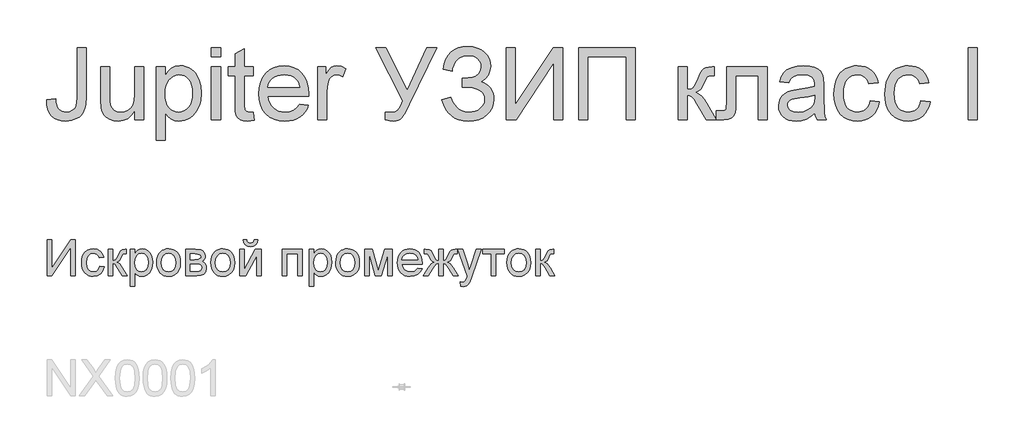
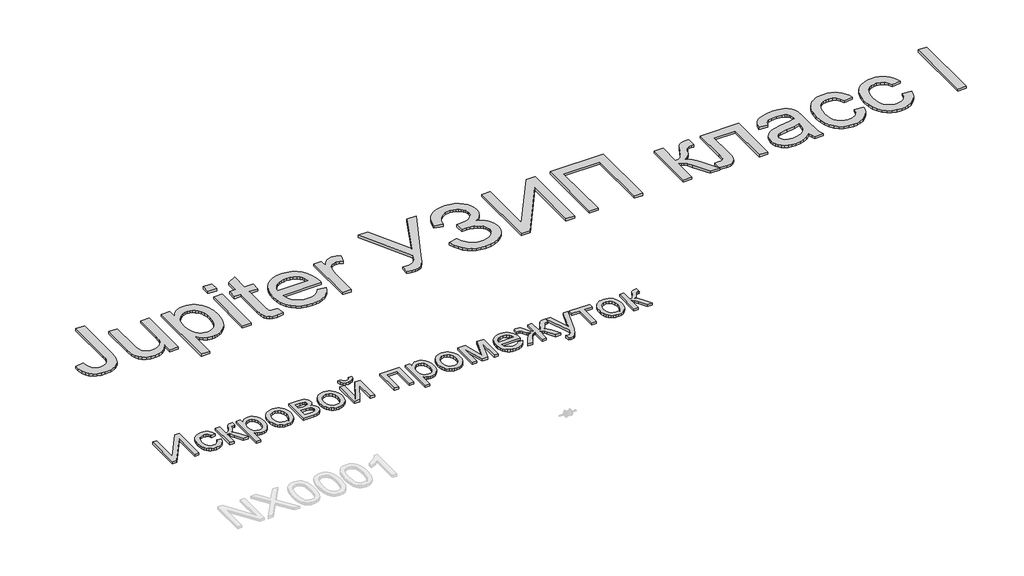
# One storey, part 46 of 124: 2 proxies.
"""IFC4 building model written with IfcOpenShell, lengths in millimetres."""

from ifc_helpers import new_model, si_unit, origin, origin_with_axes, place, context, project, spatial, polyline, outline, extrude, element, save

model = new_model("IFC4")

# Units and contexts
model_context = context("Model", 3, world=origin())
ifc_project = project(units=[si_unit("LENGTHUNIT", "METRE", prefix="MILLI")], contexts=[model_context])

# Site, building, storey
site = spatial("IfcSite", under=ifc_project)
building = spatial("IfcBuilding", under=site)
storey = spatial("IfcBuildingStorey", under=building, Name="Этаж 01", Elevation=0.0)

# Proxies
placement = place(None, origin())
element("IfcBuildingElementProxy", 1, Name="600 мм Arial", ObjectType="600 мм Arial", at=placement, inside=storey, context=model_context, shape_type="SweptSolid", body=[
    extrude(outline(polyline([(49495.1131782, -91079.6474361), (49570.4554108, -91069.9353514), (49573.1133582, -91099.8901429), (49578.2912973, -91124.7129805), (49585.989228, -91144.4038643), (49596.2071504, -91158.9627943), (49608.7887147, -91169.4566282), (49623.5775709, -91176.9522238), (49640.573719, -91181.4495812), (49659.7771592, -91182.9487004), (49687.6074321, -91179.5457919), (49711.3542149, -91169.3370665), (49729.6747383, -91153.2606233), (49741.2262329, -91132.2545614), (49747.3514681, -91101.8491145), (49749.3932132, -91057.5745164), (49749.3932132, -90646.135293), (49824.7354458, -90646.135293), (49824.7354458, -91056.2501412), (49820.1921032, -91123.333423), (49814.5129249, -91150.4601217), (49806.5620753, -91173.3101921), (49796.1418178, -91192.7941422), (49783.0544158, -91209.8224801), (49767.2998693, -91224.3952056), (49748.8781784, -91236.5123188), (49705.9647437, -91252.8462794), (49656.245492, -91258.290933), (49619.1170017, -91255.4812342), (49586.6054304, -91247.052138), (49558.7107781, -91233.0036443), (49535.4330448, -91213.3357532), (49517.1860979, -91188.1220409), (49504.3838044, -91157.436084), (49497.0261645, -91121.2778824), (49495.1131782, -91079.6474361)])), origin_with_axes(), (0.0, 0.0, 1.0), 20.0),
    extrude(outline(polyline([(50229.6999461, -91248.8731539), (50229.6999461, -91172.7951573), (50202.4398903, -91210.1995591), (50170.6916741, -91236.916989), (50134.4552976, -91252.947447), (50093.7307607, -91258.290933), (50057.0345317, -91254.5385366), (50022.8766884, -91243.2813476), (49994.218681, -91226.3587758), (49974.0219595, -91205.6102313), (49960.4287198, -91180.4103146), (49951.5811578, -91150.1336264), (49947.1665738, -91080.0888945), (49947.1665738, -90806.2375373), (50022.5088064, -90806.2375373), (50022.5088064, -91044.6250702), (50023.6492406, -91092.3025767), (50027.0705432, -91121.4388308), (50038.0518207, -91147.0618117), (50056.8689848, -91166.5411634), (50082.2712366, -91178.8468161), (50113.0077773, -91182.9487004), (50145.5101515, -91178.7548456), (50175.9155984, -91166.1732814), (50200.9867564, -91146.3628359), (50217.4862639, -91120.4823376), (50226.6465256, -91085.0369073), (50229.6999461, -91036.5316663), (50229.6999461, -90806.2375373), (50305.0421787, -90806.2375373), (50305.0421787, -91248.8731539), (50229.6999461, -91248.8731539)])), origin_with_axes(), (0.0, 0.0, 1.0), 20.0),
    extrude(outline(polyline([(50408.6377486, -91418.3931773), (50408.6377486, -90806.2375373), (50483.9799812, -90806.2375373), (50483.9799812, -90880.1082419), (50508.5544985, -90843.6695303), (50536.0720717, -90817.6418791), (50568.1513817, -90802.0252884), (50606.4111092, -90796.8197582), (50632.6870807, -90798.6407741), (50657.3627655, -90804.1038217), (50680.4381637, -90813.2089011), (50701.9132751, -90825.9560122), (50721.3190504, -90842.0140613), (50738.1864399, -90861.0519546), (50752.5154436, -90883.069692), (50764.3060615, -90908.0672736), (50780.0881991, -90963.5806666), (50785.3489116, -91024.1708312), (50779.4076174, -91088.6053627), (50771.9809996, -91118.2704471), (50761.5837348, -91146.2340772), (50748.358377, -91171.7650877), (50732.4474807, -91194.132313), (50713.8510459, -91213.3357532), (50692.5690725, -91229.3754081), (50669.6454256, -91242.0259503), (50646.1239706, -91251.0620518), (50622.0047073, -91256.4837127), (50597.2876357, -91258.290933), (50562.6515459, -91253.4532847), (50531.7310642, -91238.94034), (50505.2619546, -91217.0329672), (50483.9799812, -91190.0120347), (50483.9799812, -91418.3931773), (50408.6377486, -91418.3931773)]), holes=[polyline([(50483.9799812, -91031.0870127), (50486.0171277, -91067.3969657), (50492.1285674, -91098.6301471), (50502.3143001, -91124.7865569), (50516.574326, -91145.8661952), (50533.7406196, -91162.0897912), (50552.6451556, -91173.6780741), (50573.287934, -91180.6310438), (50595.6689549, -91182.9487004), (50618.3718726, -91180.5482703), (50639.3917301, -91173.3469803), (50658.7285274, -91161.3448302), (50676.3822647, -91144.5418201), (50691.092946, -91122.6988266), (50701.6005754, -91095.5767265), (50707.9051531, -91063.1755198), (50710.006679, -91025.4952064), (50707.9557369, -90989.4979532), (50701.8029105, -90958.3199541), (50691.5481999, -90931.9612091), (50677.1916051, -90910.4217183), (50659.9839247, -90893.6830875), (50641.1759577, -90881.7269227), (50620.767704, -90874.5532238), (50598.7591637, -90872.1619908), (50576.8196012, -90874.7049751), (50556.1768227, -90882.333928), (50536.8308283, -90895.0488494), (50518.7816179, -90912.8497395), (50503.5559019, -90935.4974748), (50492.6803904, -90962.7529321), (50486.1550835, -90994.6161114), (50483.9799812, -91031.0870127)])]), origin_with_axes(), (0.0, 0.0, 1.0), 20.0),
    extrude(outline(polyline([(50870.1089233, -90721.4775256), (50870.1089233, -90646.135293), (50945.4511559, -90646.135293), (50945.4511559, -90721.4775256), (50870.1089233, -90721.4775256)])), origin_with_axes(), (0.0, 0.0, 1.0), 20.0),
    extrude(outline(polyline([(50870.1089233, -91248.8731539), (50870.1089233, -90806.2375373), (50945.4511559, -90806.2375373), (50945.4511559, -91248.8731539), (50870.1089233, -91248.8731539)])), origin_with_axes(), (0.0, 0.0, 1.0), 20.0),
    extrude(outline(polyline([(51218.5667492, -91186.0389091), (51227.9845282, -91251.0804459), (51171.6250066, -91258.290933), (51135.4622064, -91255.163936), (51108.4964562, -91245.7829451), (51089.4401689, -91231.3251827), (51077.0057574, -91212.9678712), (51070.1631523, -91181.4403842), (51067.8822839, -91127.4720955), (51067.8822839, -90881.5797699), (51011.3756095, -90881.5797699), (51011.3756095, -90806.2375373), (51067.8822839, -90806.2375373), (51067.8822839, -90698.6688419), (51143.2245165, -90654.3758497), (51143.2245165, -90806.2375373), (51218.5667492, -90806.2375373), (51218.5667492, -90881.5797699), (51143.2245165, -90881.5797699), (51143.2245165, -91125.2648035), (51147.1976421, -91164.1131422), (51160.0735119, -91177.8719288), (51170.9444249, -91181.6795075), (51185.7516752, -91182.9487004), (51218.5667492, -91186.0389091)])), origin_with_axes(), (0.0, 0.0, 1.0), 20.0),
    extrude(outline(polyline([(51603.8127745, -91117.0242468), (51677.6834791, -91126.4420259), (51666.3573122, -91156.0289354), (51651.0672168, -91182.1025718), (51631.8131929, -91204.6629351), (51608.5952404, -91223.7100254), (51581.6524828, -91238.8391725), (51551.2240433, -91249.6457061), (51517.3099219, -91256.1296262), (51479.9101185, -91258.290933), (51433.161514, -91254.5615292), (51391.5080751, -91243.3733181), (51354.9498018, -91224.7262994), (51323.4866942, -91198.6204733), (51298.18561, -91165.7824068), (51280.113407, -91126.9386666), (51269.2700851, -91082.0892528), (51265.6556445, -91031.2341655), (51269.3068733, -90978.6546314), (51280.2605598, -90932.310697), (51298.5167038, -90892.2023625), (51324.0753054, -90858.3296278), (51355.4556396, -90831.4190599), (51391.1769813, -90812.1972256), (51431.2393306, -90800.6641251), (51475.6426874, -90796.8197582), (51518.615903, -90800.654928), (51557.4780372, -90812.1604374), (51592.2290902, -90831.3362864), (51622.8690619, -90858.182475), (51647.880439, -90891.9816333), (51665.7457084, -90932.0163914), (51676.46487, -90978.2867494), (51680.0379239, -91030.7927071), (51679.5964655, -91051.0997933), (51340.9978772, -91051.0997933), (51345.3618773, -91081.1649493), (51354.0392939, -91107.4961031), (51367.0301268, -91130.0932547), (51384.3343762, -91148.956404), (51404.9955487, -91163.8280337), (51428.0571513, -91174.4506263), (51453.5191839, -91180.8241818), (51481.3816465, -91182.9487004), (51521.480784, -91179.012363), (51555.2523511, -91167.203351), (51582.696348, -91146.7859002), (51603.8127745, -91117.0242468)]), holes=[polyline([(51340.9978772, -90975.7575607), (51604.6956913, -90975.7575607), (51594.50536, -90935.9527288), (51585.7405715, -90920.2993499), (51574.5293677, -90907.4786624), (51553.9831583, -90892.0276186), (51530.6042575, -90880.9911587), (51504.3926653, -90874.3692828), (51475.3483818, -90872.1619908), (51448.8562796, -90873.9232259), (51424.5622724, -90879.206931), (51402.46636, -90888.0131063), (51382.5685426, -90900.3417517), (51365.8712986, -90915.62265), (51353.3771063, -90933.2855843), (51345.0859658, -90953.3305545), (51340.9978772, -90975.7575607)])]), origin_with_axes(), (0.0, 0.0, 1.0), 20.0),
    extrude(outline(polyline([(51755.3801565, -91248.8731539), (51755.3801565, -90806.2375373), (51821.3046101, -90806.2375373), (51821.3046101, -90871.7205324), (51845.6583981, -90833.7551105), (51868.0991998, -90811.3878852), (51890.6135779, -90800.46179), (51915.1880952, -90796.8197582), (51952.7120587, -90802.6322937), (51990.8246334, -90820.0699003), (51965.661505, -90887.6130346), (51939.1740013, -90876.0247518), (51912.6864977, -90872.1619908), (51890.1905137, -90875.877599), (51870.0857626, -90887.0244234), (51853.8437725, -90904.7563356), (51842.9360714, -90928.2272069), (51833.7758097, -90970.3129071), (51830.7223891, -91016.2245801), (51830.7223891, -91248.8731539), (51755.3801565, -91248.8731539)])), origin_with_axes(), (0.0, 0.0, 1.0), 20.0),
    extrude(outline(polyline([(52240.395779, -90646.135293), (52323.8314155, -90646.135293), (52504.0935931, -91003.1279811), (52666.2559766, -90646.135293), (52748.9558491, -90646.135293), (52520.1332481, -91115.6998716), (52485.5891287, -91188.6140831), (52457.8876145, -91231.0676653), (52444.4323305, -91242.9778449), (52428.3466903, -91251.4851161), (52409.6306938, -91256.5894787), (52388.284341, -91258.290933), (52357.492618, -91255.9364882), (52320.4469011, -91248.8731539), (52320.4469011, -91182.9487004), (52379.7494787, -91182.9487004), (52403.4778674, -91178.7548456), (52423.7481654, -91166.1732814), (52443.2091229, -91138.6924963), (52464.5094904, -91089.8009792), (52240.395779, -90646.135293)])), origin_with_axes(), (0.0, 0.0, 1.0), 20.0),
    extrude(outline(polyline([(52791.3358549, -91079.3531305), (52866.6780876, -91060.5175724), (52872.8263154, -91080.9028334), (52882.5889838, -91101.2972915), (52912.9576425, -91142.1137989), (52933.2877213, -91159.9790683), (52956.6804177, -91172.739975), (52983.1357316, -91180.396519), (53012.6536632, -91182.9487004), (53042.6866296, -91181.0311155), (53069.3626728, -91175.2783608), (53092.6817928, -91165.6904363), (53112.6439895, -91152.267342), (53128.6422578, -91136.1311179), (53140.0695923, -91118.4038043), (53146.925993, -91099.085401), (53149.2114598, -91078.1759081), (53146.7144608, -91055.9052518), (53139.2234637, -91036.0350256), (53126.7384685, -91018.5652293), (53109.2594752, -91003.4958631), (53087.4762625, -90991.3603558), (53062.0786093, -90982.6921363), (53033.0665154, -90977.4912046), (53000.439981, -90975.7575607), (52960.8558783, -90975.7575607), (52960.8558783, -90900.4153281), (53010.0600952, -90898.8886178), (53046.1309248, -90894.3084869), (53073.9244095, -90883.4559681), (53098.2965917, -90863.1120937), (53115.2927399, -90836.3118904), (53120.9581226, -90806.0903845), (53119.0727274, -90787.7284744), (53113.4165417, -90770.6081661), (53103.9895656, -90754.7294594), (53090.791799, -90740.0923546), (53074.375065, -90727.8280885), (53055.2911865, -90719.0678985), (53033.5401635, -90713.8117845), (53009.1219961, -90712.0597465), (52967.3857837, -90717.4492178), (52932.2346591, -90733.6176314), (52905.305697, -90758.6887894), (52888.2359725, -90790.7864935), (52879.1308931, -90821.8725221), (52876.0958666, -90843.9086536), (52800.753634, -90825.0730954), (52810.0817419, -90780.927256), (52824.160126, -90742.6675285), (52842.9887863, -90710.2939129), (52866.567723, -90683.8064093), (52894.8969358, -90663.2050176), (52927.976425, -90648.4897378), (52965.8061904, -90639.6605699), (53008.3862321, -90636.7175139), (53049.4096731, -90639.775533), (53085.9541508, -90648.9495903), (53118.0196652, -90664.2396857), (53145.6062163, -90685.6458193), (53167.7849021, -90711.1446401), (53183.6268205, -90738.7127971), (53193.1319715, -90768.3502903), (53196.3003552, -90800.0571198), (53191.3707365, -90839.7056018), (53176.5818803, -90874.6268002), (53151.9337866, -90904.8207149), (53117.4264555, -90930.2873461), (53139.3062371, -90938.2749839), (53159.3282147, -90949.5827567), (53177.4923882, -90964.2106645), (53193.7987577, -90982.1587074), (53207.2540416, -91002.7279094), (53216.8649588, -91025.2192949), (53222.631509, -91049.6328638), (53224.5536925, -91075.9686162), (53220.8656755, -91113.2304637), (53209.8016245, -91147.3193291), (53191.3615394, -91178.2352123), (53165.5454204, -91205.9781132), (53133.6408544, -91228.8649719), (53096.9354283, -91245.212728), (53055.4291422, -91255.0213817), (53009.1219961, -91258.290933), (52969.087238, -91255.4950298), (52932.7129057, -91247.1073203), (52899.9989993, -91233.1278045), (52870.9455187, -91213.5564823), (52845.552464, -91188.3933539), (52823.8198351, -91157.6384191), (52805.7476321, -91121.291678), (52791.3358549, -91079.3531305)])), origin_with_axes(), (0.0, 0.0, 1.0), 20.0),
    extrude(outline(polyline([(53328.1492623, -90646.135293), (53403.4914949, -90646.135293), (53403.4914949, -91123.4989699), (53718.987094, -90646.135293), (53799.0382161, -90646.135293), (53799.0382161, -91248.8731539), (53723.6959835, -91248.8731539), (53723.6959835, -90772.8338521), (53408.9361484, -91248.8731539), (53328.1492623, -91248.8731539), (53328.1492623, -90646.135293)])), origin_with_axes(), (0.0, 0.0, 1.0), 20.0),
    extrude(outline(polyline([(53930.8871232, -90646.135293), (54401.776077, -90646.135293), (54401.776077, -91248.8731539), (54326.4338444, -91248.8731539), (54326.4338444, -90721.4775256), (54006.2293558, -90721.4775256), (54006.2293558, -91248.8731539), (53930.8871232, -91248.8731539), (53930.8871232, -90646.135293)])), origin_with_axes(), (0.0, 0.0, 1.0), 20.0),
    extrude(outline(polyline([(54759.6516819, -90806.2375373), (54834.9939145, -90806.2375373), (54834.9939145, -90994.5931188), (54865.6384847, -90991.2086045), (54885.4673243, -90981.0550614), (54903.0152955, -90954.5675577), (54926.8172605, -90902.1811616), (54946.0023066, -90859.3413033), (54961.1774389, -90834.1229925), (54975.3408957, -90820.3826), (54991.4909153, -90811.9764964), (55013.8397465, -90807.6722771), (55046.5996382, -90806.2375373), (55061.0206124, -90806.2375373), (55061.0206124, -90882.0212283), (55040.7135262, -90881.5797699), (55017.1690786, -90883.5663327), (55003.9253267, -90889.526021), (54993.1831725, -90906.117499), (54978.0264343, -90939.1165139), (54962.115538, -90972.1707112), (54947.6393815, -90992.7537088), (54930.1098044, -91006.4941014), (54905.0386464, -91019.0204833), (54928.9141879, -91029.6246818), (54952.5690002, -91048.3406783), (54976.0030833, -91075.1684728), (54999.2164372, -91110.1080653), (55079.8561705, -91248.8731539), (54994.2132421, -91248.8731539), (54915.1921895, -91113.0511213), (54893.8550338, -91076.9067152), (54875.460934, -91055.5879536), (54856.8828933, -91045.1584991), (54834.9939145, -91041.6820142), (54834.9939145, -91248.8731539), (54759.6516819, -91248.8731539), (54759.6516819, -90806.2375373)])), origin_with_axes(), (0.0, 0.0, 1.0), 20.0),
    extrude(outline(polyline([(55164.6161822, -90806.2375373), (55503.656229, -90806.2375373), (55503.656229, -91248.4316955), (55428.3139964, -91248.4316955), (55428.3139964, -90881.5797699), (55239.9584148, -90881.5797699), (55239.9584148, -91092.7440351), (55238.689222, -91154.0331755), (55234.8816433, -91190.1591875), (55225.3718937, -91212.2137131), (55206.9961881, -91231.2883945), (55179.1107328, -91244.476964), (55141.0717345, -91248.8731539), (55079.8561705, -91245.0471811), (55079.8561705, -91173.5309213), (55113.5541613, -91173.5309213), (55133.9900061, -91172.372093), (55147.620034, -91168.8956081), (55156.1365022, -91162.8991316), (55161.2316679, -91154.1803283), (55164.6161822, -91088.476604), (55164.6161822, -90806.2375373)])), origin_with_axes(), (0.0, 0.0, 1.0), 20.0),
    extrude(outline(polyline([(55899.2029502, -91192.3664794), (55863.205697, -91223.2317788), (55826.141586, -91243.4285004), (55787.1644886, -91254.5753248), (55745.4282762, -91258.290933), (55711.8820368, -91256.0560498), (55682.4652727, -91249.3514005), (55657.1779841, -91238.1769849), (55636.0201708, -91222.532803), (55619.3137297, -91203.4121363), (55607.3805575, -91181.8082662), (55600.2206542, -91157.7211925), (55597.8340197, -91131.1509154), (55601.4392633, -91099.917734), (55612.254994, -91071.5540322), (55628.9384424, -91047.2738205), (55650.1468395, -91028.2911096), (55675.0708446, -91013.9437118), (55702.9011176, -91003.5694395), (55768.0898071, -90992.2386741), (55845.1242969, -90980.3192974), (55898.7614918, -90966.3397816), (55899.2029502, -90949.5643626), (55894.0158141, -90915.9399483), (55887.5318939, -90903.4871427), (55878.4544057, -90893.9406049), (55862.7642386, -90884.4124613), (55843.6527689, -90877.6066444), (55795.165922, -90872.1619908), (55750.2843185, -90875.7856285), (55718.9407726, -90886.6565414), (55697.5668286, -90906.7612925), (55682.5940314, -90938.0864444), (55607.2517988, -90928.6686653), (55620.3300037, -90887.4658818), (55639.8461436, -90855.0922662), (55667.6212342, -90830.333808), (55705.4762915, -90811.9764964), (55751.7742406, -90800.6089428), (55804.8780066, -90796.8197582), (55855.8112689, -90800.1674844), (55896.1863178, -90810.2106628), (55926.6285529, -90825.3122187), (55947.7633736, -90843.8350772), (55961.7796776, -90866.7357314), (55970.8663629, -90894.9706745), (55974.5451828, -90960.8951281), (55974.5451828, -91054.6314604), (55978.3711556, -91185.5238743), (55984.0365383, -91217.8790958), (55993.380741, -91248.8731539), (55918.0385083, -91248.8731539), (55905.9719789, -91222.6799558), (55899.2029502, -91192.3664794)]), holes=[polyline([(55899.2029502, -91041.6820142), (55848.5823877, -91054.2267902), (55777.654739, -91064.7850035), (55712.8339314, -91076.9986857), (55695.966542, -91085.349607), (55683.4769482, -91096.8643135), (55675.7514263, -91110.6598883), (55673.1762524, -91125.8534147), (55678.7864528, -91148.2574282), (55695.6170541, -91166.6147398), (55723.3001742, -91178.8652102), (55761.4679312, -91182.9487004), (55801.9349507, -91178.4421459), (55837.6930806, -91164.9224826), (55866.6821818, -91145.0016725), (55886.8421152, -91121.291678), (55895.7816476, -91096.8643135), (55898.7614918, -91063.0191699), (55899.2029502, -91041.6820142)])]), origin_with_axes(), (0.0, 0.0, 1.0), 20.0),
    extrude(outline(polyline([(56360.6741249, -91088.7709096), (56436.0163576, -91098.1886887), (56427.8217861, -91133.739885), (56415.0102956, -91165.1983941), (56397.5818861, -91192.564216), (56375.5365575, -91215.8373507), (56349.803212, -91234.410793), (56321.3107515, -91247.6775374), (56290.059176, -91255.6375841), (56256.0484855, -91258.290933), (56213.7926398, -91254.5891204), (56175.9053929, -91243.4836827), (56142.3867446, -91224.9746198), (56113.236695, -91199.0619317), (56089.6416635, -91166.2330622), (56072.7880696, -91126.9754548), (56062.6759133, -91081.2891095), (56059.3051945, -91029.1740264), (56065.0625477, -90962.1275327), (56072.2592392, -90931.9566106), (56082.3346074, -90904.0205716), (56095.35763, -90878.8804358), (56111.397285, -90857.0972231), (56130.4535724, -90838.6709337), (56152.5264921, -90823.6015675), (56176.6181642, -90811.8845259), (56201.7307089, -90803.5152105), (56227.8641262, -90798.4936213), (56255.0184159, -90796.8197582), (56288.4450937, -90799.1190207), (56318.6803952, -90806.0168081), (56345.7243204, -90817.5131204), (56369.5768692, -90833.6079577), (56389.8333716, -90853.933438), (56406.0891572, -90878.1216791), (56418.3442262, -90906.1726813), (56426.5985785, -90938.0864444), (56351.2563459, -90947.5042234), (56337.5895297, -90914.6339672), (56316.3075563, -90891.0711254), (56288.587648, -90876.8892745), (56255.6070271, -90872.1619908), (56230.0070388, -90874.4888444), (56206.9178451, -90881.4694053), (56186.339446, -90893.1036734), (56168.2718415, -90909.3916487), (56153.5611602, -90930.7104104), (56143.0535307, -90957.4370373), (56136.748953, -90989.5715296), (56134.6474271, -91027.1138872), (56136.7029678, -91065.2218634), (56142.8695897, -91097.7288362), (56153.1472929, -91124.6348056), (56167.5360775, -91145.9397716), (56185.244997, -91162.1311779), (56205.4831053, -91173.6964682), (56228.2504023, -91180.6356423), (56253.5468879, -91182.9487004), (56292.5607735, -91177.172953), (56309.4327615, -91169.9532689), (56324.548113, -91159.8457111), (56337.4837637, -91146.739915), (56347.8166492, -91130.525516), (56355.5467696, -91111.2025142), (56360.6741249, -91088.7709096)])), origin_with_axes(), (0.0, 0.0, 1.0), 20.0),
    extrude(outline(polyline([(56784.4741834, -91088.7709096), (56859.816416, -91098.1886887), (56851.6218446, -91133.739885), (56838.8103541, -91165.1983941), (56821.3819446, -91192.564216), (56799.336616, -91215.8373507), (56773.6032704, -91234.410793), (56745.1108099, -91247.6775374), (56713.8592344, -91255.6375841), (56679.848544, -91258.290933), (56637.5926983, -91254.5891204), (56599.7054513, -91243.4836827), (56566.186803, -91224.9746198), (56537.0367534, -91199.0619317), (56513.441722, -91166.2330622), (56496.5881281, -91126.9754548), (56486.4759717, -91081.2891095), (56483.1052529, -91029.1740264), (56488.8626062, -90962.1275327), (56496.0592977, -90931.9566106), (56506.1346658, -90904.0205716), (56519.1576885, -90878.8804358), (56535.1973435, -90857.0972231), (56554.2536308, -90838.6709337), (56576.3265505, -90823.6015675), (56600.4182227, -90811.8845259), (56625.5307674, -90803.5152105), (56651.6641846, -90798.4936213), (56678.8184744, -90796.8197582), (56712.2451522, -90799.1190207), (56742.4804536, -90806.0168081), (56769.5243788, -90817.5131204), (56793.3769277, -90833.6079577), (56813.63343, -90853.933438), (56829.8892157, -90878.1216791), (56842.1442847, -90906.1726813), (56850.3986369, -90938.0864444), (56775.0564043, -90947.5042234), (56761.3895882, -90914.6339672), (56740.1076148, -90891.0711254), (56712.3877064, -90876.8892745), (56679.4070856, -90872.1619908), (56653.8070972, -90874.4888444), (56630.7179035, -90881.4694053), (56610.1395044, -90893.1036734), (56592.0718999, -90909.3916487), (56577.3612186, -90930.7104104), (56566.8535891, -90957.4370373), (56560.5490114, -90989.5715296), (56558.4474855, -91027.1138872), (56560.5030262, -91065.2218634), (56566.6696481, -91097.7288362), (56576.9473514, -91124.6348056), (56591.3361359, -91145.9397716), (56609.0450555, -91162.1311779), (56629.2831637, -91173.6964682), (56652.0504607, -91180.6356423), (56677.3469464, -91182.9487004), (56716.360832, -91177.172953), (56733.23282, -91169.9532689), (56748.3481715, -91159.8457111), (56761.2838221, -91146.739915), (56771.6167077, -91130.525516), (56779.3468281, -91111.2025142), (56784.4741834, -91088.7709096)])), origin_with_axes(), (0.0, 0.0, 1.0), 20.0),
    extrude(outline(polyline([(57180.0209046, -91248.8731539), (57180.0209046, -90646.135293), (57255.3631372, -90646.135293), (57255.3631372, -91248.8731539), (57180.0209046, -91248.8731539)])), origin_with_axes(), (0.0, 0.0, 1.0), 20.0),
])
element("IfcBuildingElementProxy", 2, Name="300", ObjectType="300", at=placement, inside=storey, context=model_context, shape_type="SweptSolid", body=[
    extrude(outline(polyline([(49499.8220677, -92247.5042234), (49537.493184, -92247.5042234), (49537.493184, -92486.1860619), (49695.2409835, -92247.5042234), (49735.2665446, -92247.5042234), (49735.2665446, -92548.8731539), (49697.5954283, -92548.8731539), (49697.5954283, -92310.853503), (49540.2155108, -92548.8731539), (49499.8220677, -92548.8731539), (49499.8220677, -92247.5042234)])), origin_with_axes(), (0.0, 0.0, 1.0), 20.0),
    extrude(outline(polyline([(49937.7487948, -92468.8220317), (49975.4199111, -92473.5309213), (49964.9168801, -92507.035774), (49945.1800111, -92532.3552523), (49918.067108, -92548.2753456), (49885.435975, -92553.5820434), (49864.3080522, -92551.7311371), (49845.3644287, -92546.1784183), (49828.6051046, -92536.9238868), (49814.0300798, -92523.9675428), (49802.232564, -92507.553108), (49793.8057671, -92487.9243043), (49788.7496889, -92465.0811317), (49787.0643295, -92439.0235901), (49789.9430061, -92405.5003433), (49798.579036, -92376.4468627), (49813.1103748, -92352.9851885), (49833.6749783, -92336.2373607), (49858.2770867, -92326.1941822), (49884.9209402, -92322.846456), (49916.7519299, -92327.444981), (49942.2001669, -92341.2405558), (49960.4563109, -92363.4974165), (49970.7110215, -92393.4797991), (49933.0399052, -92398.1886887), (49926.2064972, -92381.7535605), (49915.5655104, -92369.9721396), (49901.7055563, -92362.8812142), (49885.2152458, -92360.5175724), (49860.8706548, -92365.1712796), (49841.547653, -92379.1324013), (49828.9384976, -92403.1550956), (49824.7354458, -92437.9935205), (49828.8465271, -92473.300995), (49841.179771, -92497.4064628), (49860.1532849, -92511.284811), (49884.1851763, -92515.9109271), (49903.692119, -92513.0230535), (49919.6857888, -92504.3594325), (49931.3200569, -92489.699335), (49937.7487948, -92468.8220317)])), origin_with_axes(), (0.0, 0.0, 1.0), 20.0),
    extrude(outline(polyline([(50008.3821378, -92327.5553456), (50046.0532541, -92327.5553456), (50046.0532541, -92421.7331364), (50061.3755392, -92420.0408792), (50071.289959, -92414.9641076), (50080.0639446, -92401.7203558), (50091.9649271, -92375.5271578), (50109.1450163, -92341.4980732), (50124.3017545, -92330.4248251), (50151.8561159, -92327.5553456), (50159.0666031, -92327.5553456), (50159.0666031, -92365.4471911), (50148.91306, -92365.2264619), (50130.5189602, -92369.1995874), (50117.569514, -92393.9948339), (50102.3759876, -92420.8134314), (50081.0756201, -92433.9468186), (50093.0133908, -92439.2489178), (50104.840797, -92448.6069161), (50128.1645155, -92479.4906096), (50168.4843821, -92548.8731539), (50125.6629179, -92548.8731539), (50086.1523916, -92480.9621376), (50066.2867639, -92452.2305538), (50056.9977435, -92447.0158265), (50046.0532541, -92445.277584), (50046.0532541, -92548.8731539), (50008.3821378, -92548.8731539), (50008.3821378, -92327.5553456)])), origin_with_axes(), (0.0, 0.0, 1.0), 20.0),
    extrude(outline(polyline([(50192.0288298, -92633.6331656), (50192.0288298, -92327.5553456), (50229.6999461, -92327.5553456), (50229.6999461, -92364.4906979), (50241.9872048, -92346.2713421), (50255.7459914, -92333.2575165), (50271.7856464, -92325.4492212), (50290.9155101, -92322.846456), (50316.3913383, -92326.4884878), (50338.6665931, -92337.4145831), (50356.8031755, -92354.9625542), (50369.8629863, -92378.4702137), (50377.7540551, -92406.2269103), (50380.3844113, -92436.5219926), (50377.4137642, -92468.7392583), (50368.5018229, -92497.5536156), (50353.9336959, -92521.5027334), (50333.9944918, -92539.124281), (50310.7719408, -92549.9676028), (50286.3537734, -92553.5820434), (50269.0357285, -92551.1632193), (50253.5754876, -92543.906747), (50240.3409328, -92532.9530605), (50229.6999461, -92519.4425943), (50229.6999461, -92633.6331656), (50192.0288298, -92633.6331656)]), holes=[polyline([(50229.6999461, -92439.9800833), (50233.7742392, -92473.7516505), (50245.9971185, -92497.3696746), (50264.0325333, -92511.275614), (50285.544433, -92515.9109271), (50307.4058206, -92511.1100671), (50325.9010879, -92496.707487), (50338.5102432, -92472.2249402), (50342.713295, -92437.1841802), (50338.6114108, -92403.596554), (50326.3057581, -92379.6474361), (50308.2979344, -92365.3000383), (50287.0895374, -92360.5175724), (50265.7983669, -92365.6035409), (50247.1007645, -92380.8614467), (50234.0501507, -92405.813043), (50229.6999461, -92439.9800833)])]), origin_with_axes(), (0.0, 0.0, 1.0), 20.0),
    extrude(outline(polyline([(50413.3466381, -92438.2142497), (50415.3837847, -92409.5516438), (50421.4952243, -92384.8529663), (50431.6809571, -92364.1182174), (50445.9409829, -92347.3473969), (50460.2975778, -92336.6282353), (50476.1440947, -92328.9716913), (50493.4805337, -92324.3777649), (50512.3068948, -92322.846456), (50533.0899283, -92324.7111579), (50551.8818005, -92330.3052635), (50568.6825113, -92339.6287728), (50583.4920609, -92352.6816859), (50595.5792837, -92369.0225442), (50604.2130143, -92388.2098895), (50609.3932526, -92410.2437218), (50611.1199987, -92435.124041), (50608.0665782, -92473.1814334), (50598.9063165, -92502.1521405), (50583.9059281, -92523.8479812), (50563.3321276, -92540.0807742), (50538.895566, -92550.2067261), (50512.3068948, -92553.5820434), (50491.2203587, -92551.7242393), (50472.2537426, -92546.1508271), (50455.4070465, -92536.8618067), (50440.6802704, -92523.8571782), (50428.7218063, -92507.3576707), (50420.1800462, -92487.5840135), (50415.0549901, -92464.5362065), (50413.3466381, -92438.2142497)]), holes=[polyline([(50451.0177544, -92438.1406733), (50455.3771561, -92472.2341372), (50468.455361, -92496.523546), (50488.1370477, -92511.0640818), (50512.3068948, -92515.9109271), (50536.3663773, -92511.0364907), (50556.0112758, -92496.4131814), (50569.0894808, -92471.8018759), (50573.4488824, -92436.963451), (50569.0618896, -92403.8632684), (50555.9009112, -92379.9049535), (50536.2284216, -92365.3644176), (50512.3068948, -92360.5175724), (50488.1370477, -92365.3460235), (50468.455361, -92379.8313771), (50455.3771561, -92404.0656035), (50451.0177544, -92438.1406733)])]), origin_with_axes(), (0.0, 0.0, 1.0), 20.0),
    extrude(outline(polyline([(50653.5000046, -92327.5553456), (50736.4941827, -92327.5553456), (50763.1748244, -92328.8153414), (50782.0011855, -92332.5953289), (50795.8519426, -92339.7322396), (50807.6057723, -92351.0630051), (50815.6347969, -92365.8242701), (50818.3111384, -92383.2526797), (50816.6924576, -92397.2965748), (50811.8364153, -92409.4090895), (50803.7246173, -92419.645406), (50792.3386695, -92428.0607067), (50806.2813972, -92435.8873961), (50817.6489508, -92448.4781574), (50825.2089258, -92464.8397091), (50827.7289175, -92483.9787699), (50821.3461649, -92512.6919597), (50806.1710326, -92532.9070753), (50782.1483383, -92544.8816342), (50749.2228997, -92548.8731539), (50653.5000046, -92548.8731539), (50653.5000046, -92327.5553456)]), holes=[polyline([(50691.1711209, -92412.3153573), (50728.4007788, -92412.3153573), (50759.1189254, -92410.4023709), (50774.0549344, -92402.7504254), (50778.9937502, -92396.4228551), (50780.6400221, -92388.9180624), (50777.7521484, -92377.6792674), (50769.0885275, -92370.4503862), (50753.4351486, -92366.532443), (50729.5780012, -92365.2264619), (50691.1711209, -92365.2264619), (50691.1711209, -92412.3153573)]), polyline([(50691.1711209, -92511.2020376), (50737.3770995, -92511.2020376), (50762.558622, -92509.5005834), (50778.3591537, -92504.3962207), (50786.8388337, -92495.1163973), (50790.0578012, -92480.8885612), (50788.4483174, -92471.4615851), (50783.6198663, -92462.7519788), (50776.2070441, -92455.9369649), (50766.8444473, -92452.1937656), (50733.6982795, -92449.9864736), (50691.1711209, -92449.9864736), (50691.1711209, -92511.2020376)])]), origin_with_axes(), (0.0, 0.0, 1.0), 20.0),
    extrude(outline(polyline([(50865.4000338, -92438.2142497), (50867.4371803, -92409.5516438), (50873.54862, -92384.8529663), (50883.7343527, -92364.1182174), (50897.9943786, -92347.3473969), (50912.3509734, -92336.6282353), (50928.1974904, -92328.9716913), (50945.5339294, -92324.3777649), (50964.3602905, -92322.846456), (50985.143324, -92324.7111579), (51003.9351961, -92330.3052635), (51020.735907, -92339.6287728), (51035.5454566, -92352.6816859), (51047.6326794, -92369.0225442), (51056.2664099, -92388.2098895), (51061.4466483, -92410.2437218), (51063.1733944, -92435.124041), (51060.1199738, -92473.1814334), (51050.9597122, -92502.1521405), (51035.9593238, -92523.8479812), (51015.3855232, -92540.0807742), (50990.9489617, -92550.2067261), (50964.3602905, -92553.5820434), (50943.2737544, -92551.7242393), (50924.3071383, -92546.1508271), (50907.4604422, -92536.8618067), (50892.733666, -92523.8571782), (50880.7752019, -92507.3576707), (50872.2334419, -92487.5840135), (50867.1083858, -92464.5362065), (50865.4000338, -92438.2142497)]), holes=[polyline([(50903.0711501, -92438.1406733), (50907.4305517, -92472.2341372), (50920.5087567, -92496.523546), (50940.1904434, -92511.0640818), (50964.3602905, -92515.9109271), (50988.419773, -92511.0364907), (51008.0646715, -92496.4131814), (51021.1428764, -92471.8018759), (51025.5022781, -92436.963451), (51021.1152853, -92403.8632684), (51007.9543069, -92379.9049535), (50988.2818172, -92365.3644176), (50964.3602905, -92360.5175724), (50940.1904434, -92365.3460235), (50920.5087567, -92379.8313771), (50907.4305517, -92404.0656035), (50903.0711501, -92438.1406733)])]), origin_with_axes(), (0.0, 0.0, 1.0), 20.0),
    extrude(outline(polyline([(51105.5534002, -92327.5553456), (51143.2245165, -92327.5553456), (51143.2245165, -92496.339605), (51235.7836265, -92327.5553456), (51284.4912027, -92327.5553456), (51284.4912027, -92548.8731539), (51246.8200864, -92548.8731539), (51246.8200864, -92381.1189641), (51154.8495876, -92548.8731539), (51105.5534002, -92548.8731539), (51105.5534002, -92327.5553456)])), origin_with_axes(), (0.0, 0.0, 1.0), 20.0),
    extrude(outline(polyline([(51227.9845282, -92247.5042234), (51256.2378655, -92247.5042234), (51250.1586155, -92271.6280853), (51237.9541303, -92289.4059827), (51220.1762329, -92300.3596691), (51197.3767462, -92304.0108979), (51172.6366821, -92300.3872602), (51153.451636, -92289.5163473), (51140.3366429, -92271.766041), (51133.8067375, -92247.5042234), (51162.0600747, -92247.5042234), (51166.0332002, -92259.9110437), (51172.6550762, -92268.7310146), (51181.9624906, -92274.0009241), (51193.9922319, -92275.7575607), (51207.5670775, -92274.0561064), (51217.3895268, -92268.9517438), (51224.0114027, -92260.1869552), (51227.9845282, -92247.5042234)])), origin_with_axes(), (0.0, 0.0, 1.0), 20.0),
    extrude(outline(polyline([(51458.7201156, -92327.5553456), (51628.240139, -92327.5553456), (51628.240139, -92548.8731539), (51590.5690227, -92548.8731539), (51590.5690227, -92365.2264619), (51496.3912319, -92365.2264619), (51496.3912319, -92548.8731539), (51458.7201156, -92548.8731539), (51458.7201156, -92327.5553456)])), origin_with_axes(), (0.0, 0.0, 1.0), 20.0),
    extrude(outline(polyline([(51684.7468134, -92633.6331656), (51684.7468134, -92327.5553456), (51722.4179298, -92327.5553456), (51722.4179298, -92364.4906979), (51734.7051884, -92346.2713421), (51748.463975, -92333.2575165), (51764.50363, -92325.4492212), (51783.6334938, -92322.846456), (51809.1093219, -92326.4884878), (51831.3845767, -92337.4145831), (51849.5211591, -92354.9625542), (51862.5809699, -92378.4702137), (51870.4720387, -92406.2269103), (51873.102395, -92436.5219926), (51870.1317479, -92468.7392583), (51861.2198065, -92497.5536156), (51846.6516795, -92521.5027334), (51826.7124754, -92539.124281), (51803.4899244, -92549.9676028), (51779.071757, -92553.5820434), (51761.7537121, -92551.1632193), (51746.2934712, -92543.906747), (51733.0589165, -92532.9530605), (51722.4179298, -92519.4425943), (51722.4179298, -92633.6331656), (51684.7468134, -92633.6331656)]), holes=[polyline([(51722.4179298, -92439.9800833), (51726.4922229, -92473.7516505), (51738.7151021, -92497.3696746), (51756.750517, -92511.275614), (51778.2624166, -92515.9109271), (51800.1238042, -92511.1100671), (51818.6190715, -92496.707487), (51831.2282269, -92472.2249402), (51835.4312787, -92437.1841802), (51831.3293944, -92403.596554), (51819.0237417, -92379.6474361), (51801.015918, -92365.3000383), (51779.807521, -92360.5175724), (51758.5163505, -92365.6035409), (51739.8187481, -92380.8614467), (51726.7681343, -92405.813043), (51722.4179298, -92439.9800833)])]), origin_with_axes(), (0.0, 0.0, 1.0), 20.0),
    extrude(outline(polyline([(51906.0646217, -92438.2142497), (51908.1017683, -92409.5516438), (51914.2132079, -92384.8529663), (51924.3989407, -92364.1182174), (51938.6589665, -92347.3473969), (51953.0155614, -92336.6282353), (51968.8620783, -92328.9716913), (51986.1985173, -92324.3777649), (52005.0248784, -92322.846456), (52025.8079119, -92324.7111579), (52044.5997841, -92330.3052635), (52061.4004949, -92339.6287728), (52076.2100445, -92352.6816859), (52088.2972673, -92369.0225442), (52096.9309979, -92388.2098895), (52102.1112362, -92410.2437218), (52103.8379824, -92435.124041), (52100.7845618, -92473.1814334), (52091.6243001, -92502.1521405), (52076.6239118, -92523.8479812), (52056.0501112, -92540.0807742), (52031.6135497, -92550.2067261), (52005.0248784, -92553.5820434), (51983.9383423, -92551.7242393), (51964.9717262, -92546.1508271), (51948.1250301, -92536.8618067), (51933.398254, -92523.8571782), (51921.4397899, -92507.3576707), (51912.8980298, -92487.5840135), (51907.7729738, -92464.5362065), (51906.0646217, -92438.2142497)]), holes=[polyline([(51943.7357381, -92438.1406733), (51948.0951397, -92472.2341372), (51961.1733446, -92496.523546), (51980.8550314, -92511.0640818), (52005.0248784, -92515.9109271), (52029.0843609, -92511.0364907), (52048.7292595, -92496.4131814), (52061.8074644, -92471.8018759), (52066.166866, -92436.963451), (52061.7798733, -92403.8632684), (52048.6188949, -92379.9049535), (52028.9464052, -92365.3644176), (52005.0248784, -92360.5175724), (51980.8550314, -92365.3460235), (51961.1733446, -92379.8313771), (51948.0951397, -92404.0656035), (51943.7357381, -92438.1406733)])]), origin_with_axes(), (0.0, 0.0, 1.0), 20.0),
    extrude(outline(polyline([(52146.2179882, -92327.5553456), (52211.0387957, -92327.5553456), (52260.9971707, -92504.7273145), (52314.8550948, -92327.5553456), (52376.9535756, -92327.5553456), (52376.9535756, -92548.8731539), (52339.2824593, -92548.8731539), (52339.2824593, -92370.6711154), (52285.1302296, -92548.8731539), (52235.6868894, -92548.8731539), (52183.8891045, -92362.1362531), (52183.8891045, -92548.8731539), (52146.2179882, -92548.8731539), (52146.2179882, -92327.5553456)])), origin_with_axes(), (0.0, 0.0, 1.0), 20.0),
    extrude(outline(polyline([(52588.4121464, -92482.9487004), (52625.3474987, -92487.6575899), (52612.0393675, -92515.4878628), (52590.8033794, -92536.2915897), (52562.1177808, -92549.25943), (52526.4608184, -92553.5820434), (52503.0865161, -92551.7173416), (52482.2597967, -92546.123236), (52463.9806601, -92536.7997267), (52448.2491062, -92523.7468136), (52435.5985641, -92507.3277803), (52426.5624626, -92487.9059102), (52421.1408017, -92465.4812034), (52419.3335814, -92440.0536597), (52421.1591958, -92413.7638926), (52426.636039, -92390.5919255), (52435.764111, -92370.5377582), (52448.5434118, -92353.6013908), (52464.2335789, -92340.1461069), (52482.0942498, -92330.5351897), (52502.1254244, -92324.7686395), (52524.3271028, -92322.846456), (52545.8137106, -92324.7640409), (52565.2447778, -92330.5167956), (52582.6203042, -92340.1047201), (52597.9402901, -92353.5278144), (52610.4459786, -92370.4273936), (52619.3786133, -92390.4447727), (52624.7381942, -92413.5799516), (52626.5247211, -92439.8329305), (52626.3039919, -92449.9864736), (52457.0046977, -92449.9864736), (52463.5254061, -92478.1846285), (52478.6729472, -92498.9147789), (52500.5343348, -92511.6618901), (52527.1965824, -92515.9109271), (52547.2461511, -92513.9427584), (52564.1319347, -92508.0382524), (52577.8539331, -92497.8295271), (52588.4121464, -92482.9487004)]), holes=[polyline([(52457.0046977, -92412.3153573), (52588.8536048, -92412.3153573), (52583.7584392, -92392.4129413), (52573.770443, -92378.1759081), (52551.8078879, -92364.9321563), (52524.17995, -92360.5175724), (52498.7868953, -92364.0400425), (52477.7900305, -92374.6074528), (52463.1943123, -92391.0793691), (52457.0046977, -92412.3153573)])]), origin_with_axes(), (0.0, 0.0, 1.0), 20.0),
    extrude(outline(polyline([(52946.7292097, -92633.6331656), (52942.0203202, -92597.3600009), (52961.1501839, -92600.6709388), (52979.0292489, -92596.5138723), (52989.9921323, -92584.9255894), (53000.2928282, -92557.187287), (53003.2358842, -92548.0638135), (52923.184762, -92327.5553456), (52962.9160175, -92327.5553456), (53005.3695997, -92450.427932), (53020.1584559, -92499.5769665), (53034.9473121, -92456.1668911), (53078.5781168, -92327.5553456), (53118.0150667, -92327.5553456), (53040.9805769, -92554.1706546), (53020.9677963, -92603.3196892), (53010.7222828, -92619.0098563), (52999.1156058, -92629.8807692), (52985.6327307, -92636.2267336), (52969.7586226, -92638.3420551), (52946.7292097, -92633.6331656)])), origin_with_axes(), (0.0, 0.0, 1.0), 20.0),
    extrude(outline(polyline([(52800.753634, -92327.5553456), (52800.753634, -92421.7331364), (52814.0433711, -92419.7925588), (52822.7161891, -92413.9708263), (52843.5015219, -92373.6877478), (52856.4693622, -92348.5798016), (52868.2967683, -92335.0601383), (52882.6625602, -92329.4315438), (52903.5398635, -92327.5553456), (52918.4758725, -92327.5553456), (52918.4758725, -92365.4471911), (52908.1016002, -92365.2264619), (52888.6774309, -92369.126011), (52875.2129498, -92393.5533755), (52859.577965, -92420.3351848), (52837.2475279, -92433.9468186), (52849.6405527, -92439.2489178), (52861.8772275, -92448.6069161), (52885.8815277, -92479.4906096), (52927.8936515, -92548.8731539), (52884.7043053, -92548.8731539), (52843.3543691, -92480.4471028), (52832.0511948, -92462.4852644), (52822.2747307, -92452.0098246), (52812.3879021, -92446.9606442), (52800.753634, -92445.277584), (52800.753634, -92548.8731539), (52763.0825177, -92548.8731539), (52763.0825177, -92445.277584), (52751.5402201, -92446.923856), (52741.6349974, -92451.8626718), (52731.784957, -92462.2645352), (52720.4082063, -92480.29995), (52679.05827, -92548.8731539), (52635.9425002, -92548.8731539), (52677.8074712, -92479.4906096), (52701.9957124, -92448.6069161), (52714.2967666, -92439.2489178), (52726.7357766, -92433.9468186), (52712.3515906, -92426.7363315), (52703.0441761, -92418.9372332), (52682.73709, -92380.3096237), (52672.8042761, -92367.5809067), (52656.5438919, -92365.0057327), (52645.3602793, -92365.2264619), (52645.3602793, -92327.5553456), (52651.025662, -92327.5553456), (52684.0614651, -92329.9097904), (52701.2047661, -92339.9161806), (52720.4082063, -92373.6877478), (52740.9728098, -92413.7133089), (52749.6456278, -92419.7281795), (52763.0825177, -92421.7331364), (52763.0825177, -92327.5553456), (52800.753634, -92327.5553456)])), origin_with_axes(), (0.0, 0.0, 1.0), 20.0),
    extrude(outline(polyline([(53130.3759017, -92327.5553456), (53309.3137041, -92327.5553456), (53309.3137041, -92365.2264619), (53238.6803611, -92365.2264619), (53238.6803611, -92548.8731539), (53201.0092448, -92548.8731539), (53201.0092448, -92365.2264619), (53130.3759017, -92365.2264619), (53130.3759017, -92327.5553456)])), origin_with_axes(), (0.0, 0.0, 1.0), 20.0),
    extrude(outline(polyline([(53332.8581518, -92438.2142497), (53334.8952984, -92409.5516438), (53341.006738, -92384.8529663), (53351.1924708, -92364.1182174), (53365.4524966, -92347.3473969), (53379.8090915, -92336.6282353), (53395.6556084, -92328.9716913), (53412.9920474, -92324.3777649), (53431.8184085, -92322.846456), (53452.601442, -92324.7111579), (53471.3933142, -92330.3052635), (53488.194025, -92339.6287728), (53503.0035746, -92352.6816859), (53515.0907974, -92369.0225442), (53523.724528, -92388.2098895), (53528.9047663, -92410.2437218), (53530.6315124, -92435.124041), (53527.5780919, -92473.1814334), (53518.4178302, -92502.1521405), (53503.4174419, -92523.8479812), (53482.8436413, -92540.0807742), (53458.4070797, -92550.2067261), (53431.8184085, -92553.5820434), (53410.7318724, -92551.7242393), (53391.7652563, -92546.1508271), (53374.9185602, -92536.8618067), (53360.1917841, -92523.8571782), (53348.23332, -92507.3576707), (53339.6915599, -92487.5840135), (53334.5665039, -92464.5362065), (53332.8581518, -92438.2142497)]), holes=[polyline([(53370.5292681, -92438.1406733), (53374.8886698, -92472.2341372), (53387.9668747, -92496.523546), (53407.6485615, -92511.0640818), (53431.8184085, -92515.9109271), (53455.877891, -92511.0364907), (53475.5227896, -92496.4131814), (53488.6009945, -92471.8018759), (53492.9603961, -92436.963451), (53488.5734033, -92403.8632684), (53475.412425, -92379.9049535), (53455.7399353, -92365.3644176), (53431.8184085, -92360.5175724), (53407.6485615, -92365.3460235), (53387.9668747, -92379.8313771), (53374.8886698, -92404.0656035), (53370.5292681, -92438.1406733)])]), origin_with_axes(), (0.0, 0.0, 1.0), 20.0),
    extrude(outline(polyline([(53573.0115183, -92327.5553456), (53610.6826346, -92327.5553456), (53610.6826346, -92421.7331364), (53626.0049197, -92420.0408792), (53635.9193395, -92414.9641076), (53644.6933251, -92401.7203558), (53656.5943076, -92375.5271578), (53673.7743968, -92341.4980732), (53688.931135, -92330.4248251), (53716.4854964, -92327.5553456), (53723.6959835, -92327.5553456), (53723.6959835, -92365.4471911), (53713.5424404, -92365.2264619), (53695.1483407, -92369.1995874), (53682.1988945, -92393.9948339), (53667.0053681, -92420.8134314), (53645.7050005, -92433.9468186), (53657.6427713, -92439.2489178), (53669.4701774, -92448.6069161), (53692.7938959, -92479.4906096), (53733.1137626, -92548.8731539), (53690.2922984, -92548.8731539), (53650.7817721, -92480.9621376), (53630.9161443, -92452.2305538), (53621.627124, -92447.0158265), (53610.6826346, -92445.277584), (53610.6826346, -92548.8731539), (53573.0115183, -92548.8731539), (53573.0115183, -92327.5553456)])), origin_with_axes(), (0.0, 0.0, 1.0), 20.0),
])

save(model, "model.ifc")
